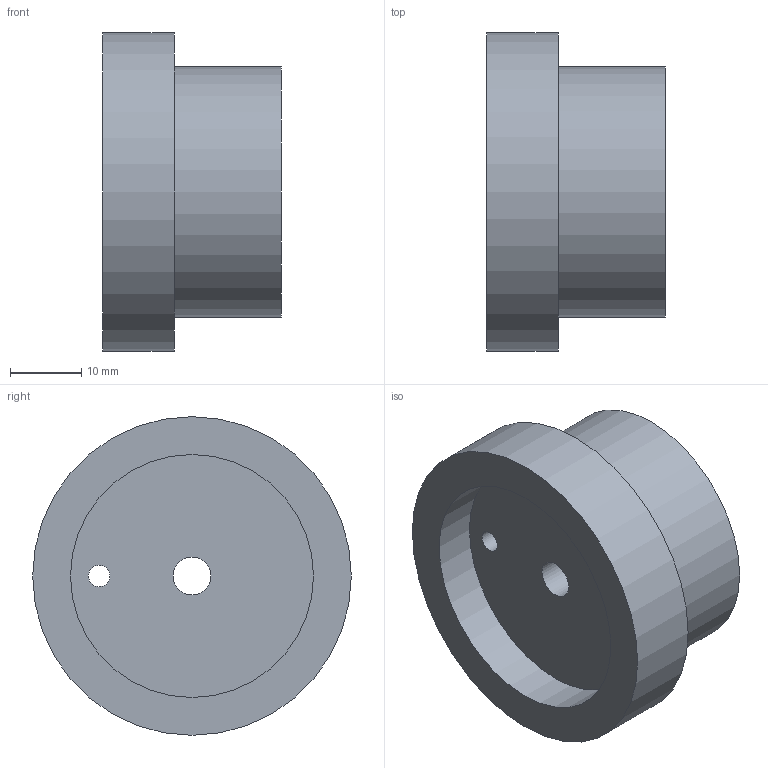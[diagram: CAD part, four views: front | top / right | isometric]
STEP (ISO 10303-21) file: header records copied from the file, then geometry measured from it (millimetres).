
FILE_DESCRIPTION(('FreeCAD Model'),'2;1');
FILE_NAME('/home/mike/Documents/3D/FreeCAD/CNC/STEP/AxesHandle.step', '2017-05-27T09:34:24',('Author'),(''), 'Open CASCADE STEP processor 6.7','FreeCAD','Unknown');
FILE_SCHEMA(('AUTOMOTIVE_DESIGN_CC2 { 1 2 10303 214 -1 1 5 4 }'));
Length unit declared in the file: millimetre
Products named in the file (1): AxesHandle
Bounding box: 25 x 44.6 x 44.6 mm (x, y, z)
Volume: 23922.9 mm3; surface area: 7308.1 mm2
Topology: 1 solids, 1 shells, 11 faces, 18 edges, 12 vertices
Faces by surface type: cylinder 6, plane 5
Full cylindrical faces by diameter (mm): 3 x1, 5.3 x1, 6.5 x1, 34 x1, 35 x1, 44.6 x1
Entity records: 602 total; most frequent: CARTESIAN_POINT 90, DIRECTION 88, ORIENTED_EDGE 36, PCURVE 36, DEFINITIONAL_REPRESENTATION 36, LINE 30, VECTOR 30, AXIS2_PLACEMENT_3D 24
